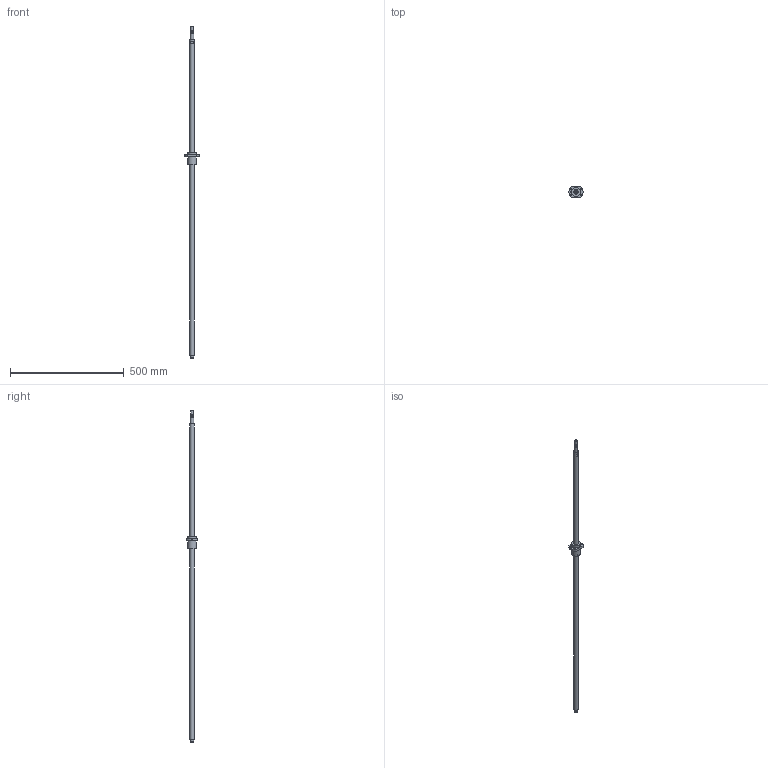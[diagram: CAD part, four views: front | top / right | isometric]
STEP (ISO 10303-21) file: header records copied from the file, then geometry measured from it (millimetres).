
FILE_DESCRIPTION(/* description */ (''),/* implementation_level */ '2;1');
FILE_NAME(/* name */ 'BSG253_asm1.stp',/* time_stamp */ '2017-01-14T09:12:15+08:00',/* author */ (''),/* organization */ (''),/* preprocessor_version */ 'ST-DEVELOPER v15',/* originating_system */ 'SIEMENS PLM Software NX 8.5',/* authorisation */ '');
FILE_SCHEMA (('AUTOMOTIVE_DESIGN { 1 0 10303 214 3 1 1 1 }'));
Length unit declared in the file: millimetre
Products named in the file (3): 01; BSG253; BSG253_asm1
Assembly tree (2 placements, depth 2):
  BSG253_asm1
    BSG253
    01
Bounding box: 62 x 46 x 1460 mm (x, y, z)
Volume: 60188.9 mm3; surface area: 108043.7 mm2
Topology: 1 solids, 2 shells, 82 faces, 215 edges, 146 vertices
Faces by surface type: plane 41, cylinder 37, bspline 2, cone 2
Full cylindrical faces by diameter (mm): 4.5 x4, 5 x1, 5.5 x4, 6 x1, 12 x1, 14.3 x1, 15 x17, 20 x2, 39 x2
Entity records: 5011 total; most frequent: CARTESIAN_POINT 3444, DIRECTION 318, ORIENTED_EDGE 268, EDGE_CURVE 134, AXIS2_PLACEMENT_3D 129, EDGE_LOOP 110, VERTEX_POINT 100, FACE_BOUND 73
